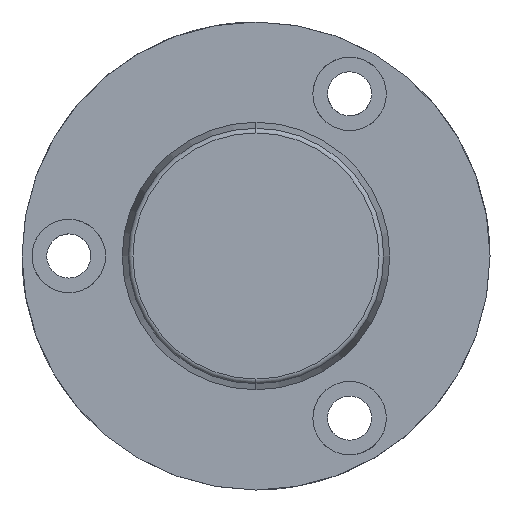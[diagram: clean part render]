
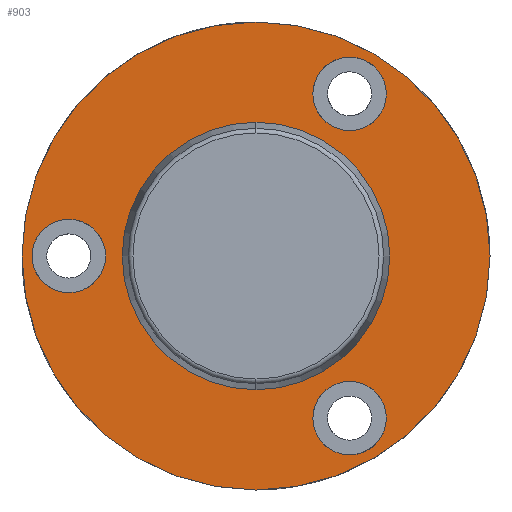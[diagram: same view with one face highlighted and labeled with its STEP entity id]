
A CAD part, left-side view. The second image highlights one B-rep face of the part: STEP entity #903.
In plain terms, the highlighted planar face has unit normal (-1, 0, 0).
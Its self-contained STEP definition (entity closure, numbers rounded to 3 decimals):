
#417=CARTESIAN_POINT('Vertex',(-12.,0.,-35.)) ;
#420=CARTESIAN_POINT('Axis2P3D Location',(-12.,0.,0.)) ;
#424=CARTESIAN_POINT('Vertex',(-12.,35.,0.)) ;
#427=CARTESIAN_POINT('Axis2P3D Location',(-12.,0.,0.)) ;
#431=CARTESIAN_POINT('Vertex',(-12.,0.,35.)) ;
#453=CARTESIAN_POINT('Axis2P3D Location',(-12.,0.,0.)) ;
#457=CARTESIAN_POINT('Vertex',(-12.,-35.,0.)) ;
#460=CARTESIAN_POINT('Axis2P3D Location',(-12.,0.,0.)) ;
#756=CARTESIAN_POINT('Axis2P3D Location',(-12.,18.5,0.)) ;
#767=CARTESIAN_POINT('Axis2P3D Location',(-12.,28.,0.)) ;
#771=CARTESIAN_POINT('Vertex',(-12.,28.,5.5)) ;
#773=CARTESIAN_POINT('Vertex',(-12.,33.5,0.)) ;
#776=CARTESIAN_POINT('Axis2P3D Location',(-12.,28.,0.)) ;
#780=CARTESIAN_POINT('Vertex',(-12.,22.5,0.)) ;
#783=CARTESIAN_POINT('Axis2P3D Location',(-12.,28.,0.)) ;
#787=CARTESIAN_POINT('Vertex',(-12.,28.,-5.5)) ;
#790=CARTESIAN_POINT('Axis2P3D Location',(-12.,28.,0.)) ;
#801=CARTESIAN_POINT('Axis2P3D Location',(-12.,-14.,24.249)) ;
#805=CARTESIAN_POINT('Vertex',(-12.,-8.5,24.249)) ;
#807=CARTESIAN_POINT('Vertex',(-12.,-14.,29.749)) ;
#810=CARTESIAN_POINT('Axis2P3D Location',(-12.,-14.,24.249)) ;
#814=CARTESIAN_POINT('Vertex',(-12.,-19.5,24.249)) ;
#817=CARTESIAN_POINT('Axis2P3D Location',(-12.,-14.,24.249)) ;
#821=CARTESIAN_POINT('Vertex',(-12.,-14.,18.749)) ;
#824=CARTESIAN_POINT('Axis2P3D Location',(-12.,-14.,24.249)) ;
#835=CARTESIAN_POINT('Axis2P3D Location',(-12.,-14.,-24.249)) ;
#839=CARTESIAN_POINT('Vertex',(-12.,-8.5,-24.249)) ;
#841=CARTESIAN_POINT('Vertex',(-12.,-14.,-18.749)) ;
#844=CARTESIAN_POINT('Axis2P3D Location',(-12.,-14.,-24.249)) ;
#848=CARTESIAN_POINT('Vertex',(-12.,-19.5,-24.249)) ;
#851=CARTESIAN_POINT('Axis2P3D Location',(-12.,-14.,-24.249)) ;
#855=CARTESIAN_POINT('Vertex',(-12.,-14.,-29.749)) ;
#858=CARTESIAN_POINT('Axis2P3D Location',(-12.,-14.,-24.249)) ;
#869=CARTESIAN_POINT('Axis2P3D Location',(-12.,0.,0.)) ;
#873=CARTESIAN_POINT('Vertex',(-12.,18.5,0.)) ;
#875=CARTESIAN_POINT('Vertex',(-12.,0.,18.5)) ;
#878=CARTESIAN_POINT('Axis2P3D Location',(-12.,0.,0.)) ;
#882=CARTESIAN_POINT('Vertex',(-12.,-18.5,0.)) ;
#885=CARTESIAN_POINT('Axis2P3D Location',(-12.,0.,0.)) ;
#889=CARTESIAN_POINT('Vertex',(-12.,0.,-18.5)) ;
#892=CARTESIAN_POINT('Axis2P3D Location',(-12.,0.,0.)) ;
#421=DIRECTION('Axis2P3D Direction',(-1.,-0.,-0.)) ;
#428=DIRECTION('Axis2P3D Direction',(-1.,-0.,-0.)) ;
#454=DIRECTION('Axis2P3D Direction',(-1.,-0.,-0.)) ;
#461=DIRECTION('Axis2P3D Direction',(-1.,-0.,-0.)) ;
#757=DIRECTION('Axis2P3D Direction',(1.,0.,-0.)) ;
#758=DIRECTION('Axis2P3D XDirection',(-0.,0.,-1.)) ;
#768=DIRECTION('Axis2P3D Direction',(1.,0.,-0.)) ;
#777=DIRECTION('Axis2P3D Direction',(1.,0.,-0.)) ;
#784=DIRECTION('Axis2P3D Direction',(1.,0.,-0.)) ;
#791=DIRECTION('Axis2P3D Direction',(1.,0.,-0.)) ;
#802=DIRECTION('Axis2P3D Direction',(1.,0.,-0.)) ;
#811=DIRECTION('Axis2P3D Direction',(1.,0.,-0.)) ;
#818=DIRECTION('Axis2P3D Direction',(1.,0.,-0.)) ;
#825=DIRECTION('Axis2P3D Direction',(1.,0.,-0.)) ;
#836=DIRECTION('Axis2P3D Direction',(1.,0.,-0.)) ;
#845=DIRECTION('Axis2P3D Direction',(1.,0.,-0.)) ;
#852=DIRECTION('Axis2P3D Direction',(1.,0.,-0.)) ;
#859=DIRECTION('Axis2P3D Direction',(1.,0.,-0.)) ;
#870=DIRECTION('Axis2P3D Direction',(1.,0.,-0.)) ;
#879=DIRECTION('Axis2P3D Direction',(1.,0.,-0.)) ;
#886=DIRECTION('Axis2P3D Direction',(1.,0.,-0.)) ;
#893=DIRECTION('Axis2P3D Direction',(1.,0.,-0.)) ;
#422=AXIS2_PLACEMENT_3D('Circle Axis2P3D',#420,#421,$) ;
#429=AXIS2_PLACEMENT_3D('Circle Axis2P3D',#427,#428,$) ;
#455=AXIS2_PLACEMENT_3D('Circle Axis2P3D',#453,#454,$) ;
#462=AXIS2_PLACEMENT_3D('Circle Axis2P3D',#460,#461,$) ;
#759=AXIS2_PLACEMENT_3D('Plane Axis2P3D',#756,#757,#758) ;
#769=AXIS2_PLACEMENT_3D('Circle Axis2P3D',#767,#768,$) ;
#778=AXIS2_PLACEMENT_3D('Circle Axis2P3D',#776,#777,$) ;
#785=AXIS2_PLACEMENT_3D('Circle Axis2P3D',#783,#784,$) ;
#792=AXIS2_PLACEMENT_3D('Circle Axis2P3D',#790,#791,$) ;
#803=AXIS2_PLACEMENT_3D('Circle Axis2P3D',#801,#802,$) ;
#812=AXIS2_PLACEMENT_3D('Circle Axis2P3D',#810,#811,$) ;
#819=AXIS2_PLACEMENT_3D('Circle Axis2P3D',#817,#818,$) ;
#826=AXIS2_PLACEMENT_3D('Circle Axis2P3D',#824,#825,$) ;
#837=AXIS2_PLACEMENT_3D('Circle Axis2P3D',#835,#836,$) ;
#846=AXIS2_PLACEMENT_3D('Circle Axis2P3D',#844,#845,$) ;
#853=AXIS2_PLACEMENT_3D('Circle Axis2P3D',#851,#852,$) ;
#860=AXIS2_PLACEMENT_3D('Circle Axis2P3D',#858,#859,$) ;
#871=AXIS2_PLACEMENT_3D('Circle Axis2P3D',#869,#870,$) ;
#880=AXIS2_PLACEMENT_3D('Circle Axis2P3D',#878,#879,$) ;
#887=AXIS2_PLACEMENT_3D('Circle Axis2P3D',#885,#886,$) ;
#894=AXIS2_PLACEMENT_3D('Circle Axis2P3D',#892,#893,$) ;
#762=ORIENTED_EDGE('',*,*,#426,.F.) ;
#763=ORIENTED_EDGE('',*,*,#464,.F.) ;
#764=ORIENTED_EDGE('',*,*,#459,.F.) ;
#765=ORIENTED_EDGE('',*,*,#433,.F.) ;
#796=ORIENTED_EDGE('',*,*,#775,.F.) ;
#797=ORIENTED_EDGE('',*,*,#782,.F.) ;
#798=ORIENTED_EDGE('',*,*,#789,.F.) ;
#799=ORIENTED_EDGE('',*,*,#794,.F.) ;
#830=ORIENTED_EDGE('',*,*,#809,.T.) ;
#831=ORIENTED_EDGE('',*,*,#816,.T.) ;
#832=ORIENTED_EDGE('',*,*,#823,.T.) ;
#833=ORIENTED_EDGE('',*,*,#828,.T.) ;
#864=ORIENTED_EDGE('',*,*,#843,.T.) ;
#865=ORIENTED_EDGE('',*,*,#850,.T.) ;
#866=ORIENTED_EDGE('',*,*,#857,.T.) ;
#867=ORIENTED_EDGE('',*,*,#862,.T.) ;
#898=ORIENTED_EDGE('',*,*,#877,.T.) ;
#899=ORIENTED_EDGE('',*,*,#884,.T.) ;
#900=ORIENTED_EDGE('',*,*,#891,.T.) ;
#901=ORIENTED_EDGE('',*,*,#896,.T.) ;
#800=FACE_BOUND('',#795,.T.) ;
#834=FACE_BOUND('',#829,.T.) ;
#868=FACE_BOUND('',#863,.T.) ;
#902=FACE_BOUND('',#897,.T.) ;
#903=ADVANCED_FACE('721-40x240',(#766,#800,#834,#868,#902),#760,.F.) ;
#423=CIRCLE('generated circle',#422,35.) ;
#430=CIRCLE('generated circle',#429,35.) ;
#456=CIRCLE('generated circle',#455,35.) ;
#463=CIRCLE('generated circle',#462,35.) ;
#770=CIRCLE('generated circle',#769,5.5) ;
#779=CIRCLE('generated circle',#778,5.5) ;
#786=CIRCLE('generated circle',#785,5.5) ;
#793=CIRCLE('generated circle',#792,5.5) ;
#804=CIRCLE('generated circle',#803,5.5) ;
#813=CIRCLE('generated circle',#812,5.5) ;
#820=CIRCLE('generated circle',#819,5.5) ;
#827=CIRCLE('generated circle',#826,5.5) ;
#838=CIRCLE('generated circle',#837,5.5) ;
#847=CIRCLE('generated circle',#846,5.5) ;
#854=CIRCLE('generated circle',#853,5.5) ;
#861=CIRCLE('generated circle',#860,5.5) ;
#872=CIRCLE('generated circle',#871,18.5) ;
#881=CIRCLE('generated circle',#880,18.5) ;
#888=CIRCLE('generated circle',#887,18.5) ;
#895=CIRCLE('generated circle',#894,18.5) ;
#426=EDGE_CURVE('',#418,#425,#423,.F.) ;
#433=EDGE_CURVE('',#425,#432,#430,.F.) ;
#459=EDGE_CURVE('',#432,#458,#456,.F.) ;
#464=EDGE_CURVE('',#458,#418,#463,.F.) ;
#775=EDGE_CURVE('',#772,#774,#770,.F.) ;
#782=EDGE_CURVE('',#781,#772,#779,.F.) ;
#789=EDGE_CURVE('',#788,#781,#786,.F.) ;
#794=EDGE_CURVE('',#774,#788,#793,.F.) ;
#809=EDGE_CURVE('',#806,#808,#804,.T.) ;
#816=EDGE_CURVE('',#808,#815,#813,.T.) ;
#823=EDGE_CURVE('',#815,#822,#820,.T.) ;
#828=EDGE_CURVE('',#822,#806,#827,.T.) ;
#843=EDGE_CURVE('',#840,#842,#838,.T.) ;
#850=EDGE_CURVE('',#842,#849,#847,.T.) ;
#857=EDGE_CURVE('',#849,#856,#854,.T.) ;
#862=EDGE_CURVE('',#856,#840,#861,.T.) ;
#877=EDGE_CURVE('',#874,#876,#872,.T.) ;
#884=EDGE_CURVE('',#876,#883,#881,.T.) ;
#891=EDGE_CURVE('',#883,#890,#888,.T.) ;
#896=EDGE_CURVE('',#890,#874,#895,.T.) ;
#761=EDGE_LOOP('',(#762,#763,#764,#765)) ;
#795=EDGE_LOOP('',(#796,#797,#798,#799)) ;
#829=EDGE_LOOP('',(#830,#831,#832,#833)) ;
#863=EDGE_LOOP('',(#864,#865,#866,#867)) ;
#897=EDGE_LOOP('',(#898,#899,#900,#901)) ;
#766=FACE_OUTER_BOUND('',#761,.T.) ;
#760=PLANE('Plane',#759) ;
#418=VERTEX_POINT('',#417) ;
#425=VERTEX_POINT('',#424) ;
#432=VERTEX_POINT('',#431) ;
#458=VERTEX_POINT('',#457) ;
#772=VERTEX_POINT('',#771) ;
#774=VERTEX_POINT('',#773) ;
#781=VERTEX_POINT('',#780) ;
#788=VERTEX_POINT('',#787) ;
#806=VERTEX_POINT('',#805) ;
#808=VERTEX_POINT('',#807) ;
#815=VERTEX_POINT('',#814) ;
#822=VERTEX_POINT('',#821) ;
#840=VERTEX_POINT('',#839) ;
#842=VERTEX_POINT('',#841) ;
#849=VERTEX_POINT('',#848) ;
#856=VERTEX_POINT('',#855) ;
#874=VERTEX_POINT('',#873) ;
#876=VERTEX_POINT('',#875) ;
#883=VERTEX_POINT('',#882) ;
#890=VERTEX_POINT('',#889) ;
